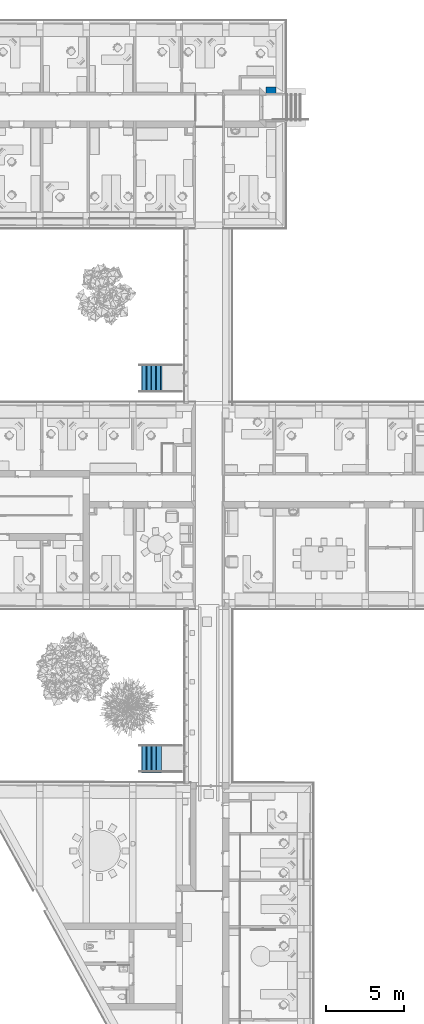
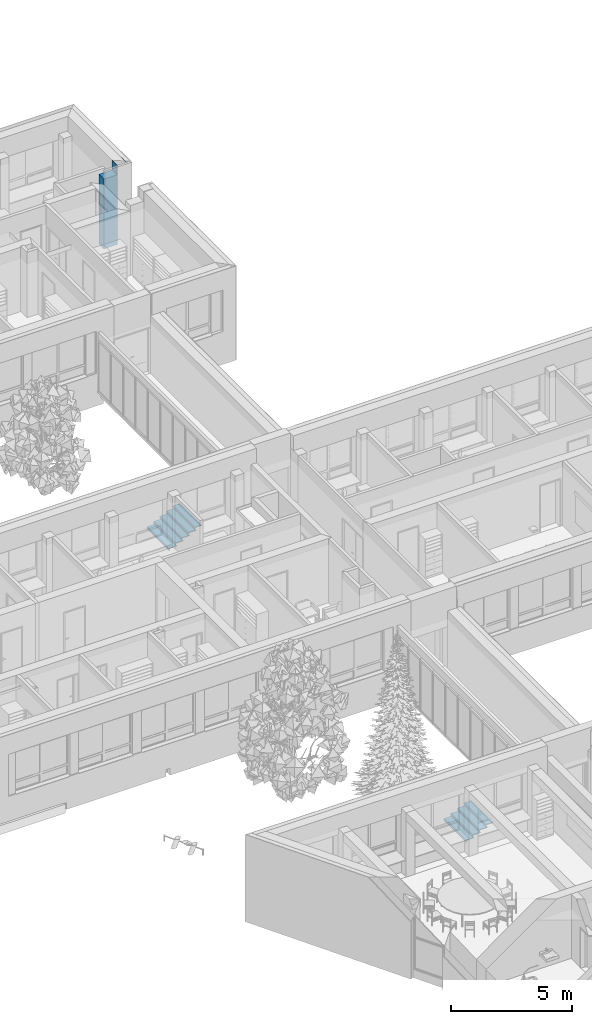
# One storey, part 74 of 194: 2 stairs, 1 wall.
"""IFC2X3 building model written with IfcOpenShell, lengths in millimetres."""

import ifcopenshell
import ifcopenshell.guid

model = None  # the IFC model being written
_history = None  # IfcOwnerHistory: only IFC2X3 demands one
_inside = {}  # id of a spatial element -> (the spatial element, [elements in it])
_under = {}  # id of a project, library or spatial element -> (it, [spatial elements below it])
_declared = {}  # id of a project -> (the project, [libraries it declares])
_typed = {}  # id of a type object -> (the type object, [elements of that type])
_made_of = {}  # id of a material, layer set ... -> (it, [elements and type objects made of it])


def new_model(schema):
    """Start an empty IFC model of exactly this schema.

    Asked for "IFC4X3", IfcOpenShell would pick the latest addendum, in which some entities
    have other attributes; the version numbers below select the first issue.
    IFC2X3 requires an IfcOwnerHistory on every rooted entity: one is made here for all.
    """
    global model, _history
    if schema == "IFC4X3":
        model = ifcopenshell.file(schema_version=(4, 3, 0, 0))
    else:
        model = ifcopenshell.file(schema=schema)
    _inside.clear()
    _under.clear()
    _declared.clear()
    _typed.clear()
    _made_of.clear()
    _history = None
    if model.schema == "IFC2X3":
        org = make("IfcOrganization", Name="unknown")
        user = make(
            "IfcPersonAndOrganization",
            ThePerson=make("IfcPerson", FamilyName="unknown"),
            TheOrganization=org,
        )
        app = make(
            "IfcApplication",
            ApplicationDeveloper=org,
            Version="unknown",
            ApplicationFullName="unknown",
            ApplicationIdentifier="unknown",
        )
        _history = make(
            "IfcOwnerHistory",
            OwningUser=user,
            OwningApplication=app,
            ChangeAction="ADDED",
            CreationDate=0,
        )
    return model


def make(cls, **values):
    """One entity of the class cls with the attributes given. An attribute that is None is left unset."""
    return model.create_entity(
        cls, **{name: value for name, value in values.items() if value is not None}
    )


def entity(cls, *values):
    """Any entity or typed value of the class cls, its attributes in the order of the schema. None: left unset."""
    e = model.create_entity(cls)
    for i, value in enumerate(values):
        if value is not None:
            e[i] = value
    return e


def rooted(cls, **values):
    """An entity with a GlobalId (a new one), such as an element, a storey or a relation."""
    return make(cls, GlobalId=ifcopenshell.guid.new(), OwnerHistory=_history, **values)


def si_unit(unit_type, name, prefix=None):
    """IfcSIUnit, for example si_unit("LENGTHUNIT", "METRE", prefix="MILLI")."""
    return make("IfcSIUnit", UnitType=unit_type, Prefix=prefix, Name=name)


def converted_unit(unit_type, name, factor, base, dimensions=None, offset=None):
    """IfcConversionBasedUnit, such as the inch: factor (a typed value) times the base unit."""
    return make(
        "IfcConversionBasedUnit"
        if offset is None
        else "IfcConversionBasedUnitWithOffset",
        ConversionOffset=offset,
        Dimensions=None
        if dimensions is None
        else entity("IfcDimensionalExponents", *dimensions),
        UnitType=unit_type,
        Name=name,
        ConversionFactor=make(
            "IfcMeasureWithUnit", ValueComponent=factor, UnitComponent=base
        ),
    )


def derived_unit(unit_type, elements):
    """IfcDerivedUnit: a product of units, each with its exponent."""
    return make(
        "IfcDerivedUnit",
        Elements=[
            make("IfcDerivedUnitElement", Unit=unit, Exponent=power)
            for unit, power in elements
        ],
        UnitType=unit_type,
    )


def money_unit(currency):
    """IfcMonetaryUnit."""
    return make("IfcMonetaryUnit", Currency=currency)


def assignment(units):
    """IfcUnitAssignment: the units of a project."""
    return None if units is None else make("IfcUnitAssignment", Units=units)


def point(xyz):
    """IfcCartesianPoint."""
    return None if xyz is None else make("IfcCartesianPoint", Coordinates=xyz)


def direction(xyz):
    """IfcDirection."""
    return None if xyz is None else make("IfcDirection", DirectionRatios=xyz)


def frame(location, z_axis=None, x_axis=None):
    """IfcAxis2Placement3D, a coordinate frame: its origin and axes. An axis left out is left unset."""
    return make(
        "IfcAxis2Placement3D",
        Location=point(location),
        Axis=direction(z_axis),
        RefDirection=direction(x_axis),
    )


def origin_with_axes():
    """The frame at (0, 0, 0) with the z axis (0, 0, 1) and the x axis (1, 0, 0) written out."""
    return frame((0.0, 0.0, 0.0), z_axis=(0.0, 0.0, 1.0), x_axis=(1.0, 0.0, 0.0))


def place(relative_to, where):
    """IfcLocalPlacement: puts the frame where relative to a parent placement (None: the world)."""
    return make(
        "IfcLocalPlacement", PlacementRelTo=relative_to, RelativePlacement=where
    )


def context(
    kind, dimensions, precision=None, world=None, true_north=None, identifier=None
):
    """IfcGeometricRepresentationContext, for example the 3D "Model" context."""
    return make(
        "IfcGeometricRepresentationContext",
        ContextIdentifier=identifier,
        ContextType=kind,
        CoordinateSpaceDimension=dimensions,
        Precision=precision,
        WorldCoordinateSystem=world,
        TrueNorth=true_north,
    )


def subcontext(parent, identifier, kind, view, scale=None):
    """IfcGeometricRepresentationSubContext, for example "Body" below "Model"."""
    return make(
        "IfcGeometricRepresentationSubContext",
        ContextIdentifier=identifier,
        ContextType=kind,
        ParentContext=parent,
        TargetScale=scale,
        TargetView=view,
    )


def project(units=None, contexts=None):
    """IfcProject with its units and contexts."""
    return rooted(
        "IfcProject",
        Name="project",
        RepresentationContexts=contexts,
        UnitsInContext=assignment(units),
    )


def spatial(cls, under=None, at=None, **own):
    """A site, building, storey or space (cls), placed at a placement, below another one or the project."""
    s = rooted(cls, ObjectPlacement=at, **own)
    if under is not None:
        _under.setdefault(under.id(), (under, []))[1].append(s)
    return s


def polyline(points):
    """IfcPolyline through the points."""
    return make("IfcPolyline", Points=[point(p) for p in points])


def outline(outer, holes=None, kind="AREA"):
    """IfcArbitraryClosedProfileDef: a profile drawn as a closed curve; with holes, ...WithVoids."""
    if holes is None:
        return make("IfcArbitraryClosedProfileDef", ProfileType=kind, OuterCurve=outer)
    return make(
        "IfcArbitraryProfileDefWithVoids",
        ProfileType=kind,
        OuterCurve=outer,
        InnerCurves=holes,
    )


def extrude(swept, where, along, depth):
    """IfcExtrudedAreaSolid: the profile swept, set in the frame where, extruded along a direction by depth."""
    return make(
        "IfcExtrudedAreaSolid",
        SweptArea=swept,
        Position=where,
        ExtrudedDirection=direction(along),
        Depth=depth,
    )


def boolean(op, a, b):
    """IfcBooleanResult of two solids."""
    return make("IfcBooleanResult", Operator=op, FirstOperand=a, SecondOperand=b)


def faces_of(points, faces, orient=None, outer=None):
    """IfcFace entities. A face is a list of loops; a loop is a list of indices into points, from 0.

    orient and outer hold one flag for each loop. By default every Orientation is true, the
    first loop of a face is its IfcFaceOuterBound and the others are IfcFaceBound.
    """
    made = []
    for i, loops in enumerate(faces):
        bounds = []
        for j, loop in enumerate(loops):
            is_outer = j == 0 if outer is None else outer[i][j]
            bounds.append(
                make(
                    "IfcFaceOuterBound" if is_outer else "IfcFaceBound",
                    Bound=make("IfcPolyLoop", Polygon=[points[k] for k in loop]),
                    Orientation=True if orient is None else orient[i][j],
                )
            )
        made.append(make("IfcFace", Bounds=bounds))
    return made


def faceted_brep(points, faces, orient=None, outer=None, voids=None):
    """IfcFacetedBrep: a solid bounded by flat faces; with voids (closed shells), ...WithVoids."""
    shared = [point(p) for p in points]
    hull = make("IfcClosedShell", CfsFaces=faces_of(shared, faces, orient, outer))
    if voids is None:
        return make("IfcFacetedBrep", Outer=hull)
    return make(
        "IfcFacetedBrepWithVoids",
        Outer=hull,
        Voids=[
            make(cls, CfsFaces=faces_of(shared, fs, o, b)) for cls, fs, o, b in voids
        ],
    )


def shape(context_of_items, identifier, shape_type, items):
    """IfcShapeRepresentation: the items that make up one representation, for example the "Body"."""
    return make(
        "IfcShapeRepresentation",
        ContextOfItems=context_of_items,
        RepresentationIdentifier=identifier,
        RepresentationType=shape_type,
        Items=items,
    )


def material(Name=None, Category=None):
    """IfcMaterial."""
    return make("IfcMaterial", Name=Name, Category=Category)


def made_of(thing, what):
    """Note that an element or type object is made of a material, layer set ...; save() writes the relation."""
    if what is not None:
        _made_of.setdefault(what.id(), (what, []))[1].append(thing)
    return thing


def type_object(cls, material=None, **own):
    """A type object (cls), such as IfcWallType, which elements share."""
    return made_of(rooted(cls, **own), material)


def element(
    cls,
    number,
    at=None,
    inside=None,
    cuts=None,
    type_object=None,
    material=None,
    context=None,
    identifier="Body",
    shape_type=None,
    held_by="IfcProductDefinitionShape",
    body=None,
    shapes=None,
    **own,
):
    """One element of the class cls, such as IfcWall. Its Tag is "e" and its number.

    at: its placement. inside: the storey or other place that contains it. cuts: it is an
    opening in that element (IfcRelVoidsElement). A single representation is given by context,
    identifier, shape_type and body (its items); several are given by shapes. held_by: the class
    of the entity that holds the representations. save() writes the other relations.
    """
    e = rooted(cls, Tag="e%d" % number, ObjectPlacement=at, **own)
    if body is not None:
        shapes = [shape(context, identifier, shape_type, body)]
    if shapes is not None:
        e.Representation = make(held_by, Representations=shapes)
    if inside is not None:
        _inside.setdefault(inside.id(), (inside, []))[1].append(e)
    if cuts is not None:
        rooted(
            "IfcRelVoidsElement", RelatingBuildingElement=cuts, RelatedOpeningElement=e
        )
    if type_object is not None:
        _typed.setdefault(type_object.id(), (type_object, []))[1].append(e)
    return made_of(e, material)


def aggregate(whole, parts):
    """IfcRelAggregates: a whole, such as a stair, and the parts it consists of."""
    return rooted("IfcRelAggregates", RelatingObject=whole, RelatedObjects=parts)


def save(model, path):
    """Write the relations noted so far, then the file.

    IfcRelAggregates (storeys below a building ...), IfcRelContainedInSpatialStructure (elements
    in a storey), IfcRelDefinesByType, IfcRelAssociatesMaterial and IfcRelDeclares: one each for
    every whole, place, type object, material and project.
    """
    for whole, parts in _under.values():
        aggregate(whole, parts)
    for where, things in _inside.values():
        rooted(
            "IfcRelContainedInSpatialStructure",
            RelatedElements=things,
            RelatingStructure=where,
        )
    for kind, things in _typed.values():
        rooted("IfcRelDefinesByType", RelatedObjects=things, RelatingType=kind)
    for what, things in _made_of.values():
        rooted("IfcRelAssociatesMaterial", RelatedObjects=things, RelatingMaterial=what)
    for by, libraries in _declared.values():
        rooted("IfcRelDeclares", RelatingContext=by, RelatedDefinitions=libraries)
    model.write(path)


model = new_model("IFC2X3")

# Units and contexts
model_context = context("Model", 3, precision=1e-05, world=origin_with_axes(), true_north=direction((0.0, 1.0)))
body_context = subcontext(model_context, "Body", "Model", "MODEL_VIEW")
ifc_project = project(units=[si_unit("LENGTHUNIT", "METRE", prefix="MILLI"), si_unit("AREAUNIT", "SQUARE_METRE"), si_unit("VOLUMEUNIT", "CUBIC_METRE"), converted_unit("PLANEANGLEUNIT", "DEGREE", entity("IfcPlaneAngleMeasure", 0.0174532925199), si_unit("PLANEANGLEUNIT", "RADIAN"), dimensions=[0, 0, 0, 0, 0, 0, 0]), si_unit("SOLIDANGLEUNIT", "STERADIAN"), money_unit("EUR"), converted_unit("TIMEUNIT", "Year", entity("IfcTimeMeasure", 31556926.0), si_unit("TIMEUNIT", "SECOND"), dimensions=[0, 0, 1, 0, 0, 0, 0]), si_unit("MASSUNIT", "GRAM", prefix="KILO"), si_unit("THERMODYNAMICTEMPERATUREUNIT", "DEGREE_CELSIUS"), si_unit("LUMINOUSINTENSITYUNIT", "LUMEN"), si_unit("ENERGYUNIT", "JOULE", prefix="MEGA"), derived_unit("THERMALCONDUCTANCEUNIT", [(si_unit("POWERUNIT", "WATT"), 1), (si_unit("LENGTHUNIT", "METRE"), -1), (si_unit("THERMODYNAMICTEMPERATUREUNIT", "KELVIN"), -1)]), derived_unit("SPECIFICHEATCAPACITYUNIT", [(si_unit("ENERGYUNIT", "JOULE"), 1), (si_unit("MASSUNIT", "GRAM", prefix="KILO"), -1), (si_unit("THERMODYNAMICTEMPERATUREUNIT", "KELVIN"), -1)]), derived_unit("MASSDENSITYUNIT", [(si_unit("MASSUNIT", "GRAM", prefix="KILO"), 1), (si_unit("VOLUMEUNIT", "CUBIC_METRE"), -1)])], contexts=[model_context])

# Site, building, storey
site_placement = place(None, origin_with_axes())
site = spatial("IfcSite", under=ifc_project, at=site_placement, Name="Site", CompositionType="ELEMENT")
building_placement = place(site_placement, origin_with_axes())
building = spatial("IfcBuilding", under=site, at=building_placement, Name="Building", CompositionType="ELEMENT")
storey_placement = place(building_placement, frame((0.0, 0.0, 3000.0), z_axis=(0.0, 0.0, 1.0), x_axis=(1.0, 0.0, 0.0)))
storey = spatial("IfcBuildingStorey", under=building, at=storey_placement, Name="2 KORRUS", CompositionType="ELEMENT", Elevation=3000.0)

# Wall
ifc_material = material(Name="Kivi -Ol.Olev Konstruktsioon")
wall_type = type_object("IfcWallType", Name="SW - 022", PredefinedType="NOTDEFINED")
wall_placement = place(storey_placement, frame((42543.7335859, 67815.469464, 0.0), z_axis=(0.0, 0.0, 1.0), x_axis=(0.999999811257, 0.000614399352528, 0.0)))
element("IfcWall", 1, at=wall_placement, inside=storey, type_object=wall_type, material=ifc_material, Name="ol.olev ss 420", context=body_context, shape_type="CSG", body=[
    boolean("DIFFERENCE", boolean("DIFFERENCE", extrude(outline(polyline([(-420.258127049, -419.999999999), (1299.33332049, -419.999999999), (1299.33332049, 0.0), (-420.258127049, 9.09494701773e-10), (-420.258127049, -419.999999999)])), origin_with_axes(), (0.0, 0.0, 1.0), 4000.0), faceted_brep([(629.622979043, -420.0, 4000.0), (629.889231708, 9.09494701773e-10, 4000.0), (-420.258127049, 1.81898940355e-09, 4000.0), (-420.258127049, -419.999999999, 4000.0), (629.889231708, 9.09494701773e-10, 3515.0), (629.622979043, -419.999999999, 3515.0), (0.0, 0.0, 3250.0), (0.0, 0.0, 0.0), (-420.258127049, 1.81898940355e-09, 0.0), (0.0, 0.0, 3515.0), (-420.258127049, -419.999999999, 0.0), (-0.258047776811, -420.0, 0.0), (-0.258047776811, -420.0, 3250.0), (0.0, -420.0, 3250.0), (0.0, -420.0, 3515.0)], [[[0, 1, 2, 3]], [[4, 1, 0, 5]], [[6, 7, 8, 2, 1, 4, 9]], [[2, 8, 10, 3]], [[5, 0, 3, 10, 11, 12, 13, 14]], [[9, 4, 5, 14]], [[7, 6, 12, 11]], [[7, 11, 10, 8]], [[14, 13, 6, 9]], [[13, 12, 6]]])), faceted_brep([(1079.33331662, 0.0, 4000.0), (1079.33331662, -419.999999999, 4000.0), (1299.33332049, -419.999999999, 4000.0), (1299.33332049, 0.0, 4000.0), (1079.33331662, -419.999999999, 3980.0), (1079.33331662, 0.0, 3980.0), (1078.46537939, -419.999999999, 3980.0), (1078.46537939, -420.0, 4000.0), (648.465340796, -420.0, 4000.0), (648.465340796, -420.0, 3980.0), (649.254506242, -419.999999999, 3980.0), (649.254506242, -419.999999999, 0.0), (1299.33332049, -419.999999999, 0.0), (1299.33332049, 0.0, 0.0), (649.333309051, 0.0, 0.0), (649.333309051, 0.0, 3980.0), (648.643283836, 0.0, 3980.0), (648.643283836, 0.0, 4000.0), (1078.64332243, 0.0, 4000.0), (1078.64332243, 0.0, 3980.0)], [[[0, 1, 2, 3]], [[4, 1, 0, 5]], [[6, 7, 8, 9, 10, 11, 12, 2, 1, 4]], [[2, 12, 13, 3]], [[5, 0, 3, 13, 14, 15, 16, 17, 18, 19]], [[6, 4, 5, 19]], [[18, 7, 6, 19]], [[7, 18, 17, 8]], [[9, 8, 17, 16]], [[10, 9, 16, 15]], [[11, 10, 15, 14]], [[11, 14, 13, 12]]])),
])

# Stairs
stair_1_placement = place(storey_placement, frame((34547.5062773, 48155.5306013, -779.190872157), z_axis=(0.0, 0.0, 1.0), x_axis=(0.0, -1.0, 0.0)))
element("IfcStair", 2, at=stair_1_placement, inside=storey, Name="Air Space", ShapeType="NOTDEFINED", context=body_context, shape_type="Brep", body=[
    faceted_brep([(0.0, 381.656984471, 118.338174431), (-1800.54179812, 381.656984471, 118.338174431), (-1800.54179812, 364.010473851, 155.838174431), (0.0, 364.010473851, 155.838174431), (0.0, 0.0, 118.338174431), (-1800.54179812, 0.0, 118.338174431), (-1800.54179812, 55.686822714, 0.0), (-1800.54179812, 18.186822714, 0.0), (-1800.54179812, -37.5, 118.338174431), (-1800.54179812, 0.0, 155.838174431), (0.0, 0.0, 155.838174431), (0.0, -37.5, 118.338174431), (0.0, 18.186822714, 0.0), (0.0, 55.686822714, 0.0)], [[[0, 1, 2, 3]], [[4, 5, 1, 0]], [[1, 5, 6, 7, 8, 9, 2]], [[3, 2, 9, 10]], [[0, 3, 10, 11, 12, 13, 4]], [[13, 6, 5, 4]], [[12, 7, 6, 13]], [[11, 8, 7, 12]], [[10, 9, 8, 11]]]),
    faceted_brep([(0.0, 689.980635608, 274.176348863), (-1800.54179812, 689.980635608, 274.176348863), (-1800.54179812, 672.334124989, 311.676348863), (0.0, 672.334124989, 311.676348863), (0.0, 308.323651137, 274.176348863), (-1800.54179812, 308.323651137, 274.176348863), (-1800.54179812, 364.010473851, 155.838174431), (-1800.54179812, 326.510473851, 155.838174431), (-1800.54179812, 270.823651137, 274.176348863), (-1800.54179812, 308.323651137, 311.676348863), (0.0, 308.323651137, 311.676348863), (0.0, 270.823651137, 274.176348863), (0.0, 326.510473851, 155.838174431), (0.0, 364.010473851, 155.838174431)], [[[0, 1, 2, 3]], [[4, 5, 1, 0]], [[1, 5, 6, 7, 8, 9, 2]], [[3, 2, 9, 10]], [[0, 3, 10, 11, 12, 13, 4]], [[13, 6, 5, 4]], [[12, 7, 6, 13]], [[11, 8, 7, 12]], [[10, 9, 8, 11]]]),
    faceted_brep([(0.0, 998.304286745, 430.014523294), (-1800.54179812, 998.304286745, 430.014523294), (-1800.54179812, 980.657776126, 467.514523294), (0.0, 980.657776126, 467.514523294), (0.0, 616.647302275, 430.014523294), (-1800.54179812, 616.647302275, 430.014523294), (-1800.54179812, 672.334124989, 311.676348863), (-1800.54179812, 634.834124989, 311.676348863), (-1800.54179812, 579.147302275, 430.014523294), (-1800.54179812, 616.647302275, 467.514523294), (0.0, 616.647302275, 467.514523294), (0.0, 579.147302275, 430.014523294), (0.0, 634.834124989, 311.676348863), (0.0, 672.334124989, 311.676348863)], [[[0, 1, 2, 3]], [[4, 5, 1, 0]], [[1, 5, 6, 7, 8, 9, 2]], [[3, 2, 9, 10]], [[0, 3, 10, 11, 12, 13, 4]], [[13, 6, 5, 4]], [[12, 7, 6, 13]], [[11, 8, 7, 12]], [[10, 9, 8, 11]]]),
    faceted_brep([(0.0, 1306.62793788, 585.852697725), (-1800.54179812, 1306.62793788, 585.852697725), (-1800.54179812, 1288.98142726, 623.352697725), (0.0, 1288.98142726, 623.352697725), (0.0, 924.970953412, 585.852697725), (-1800.54179812, 924.970953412, 585.852697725), (-1800.54179812, 980.657776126, 467.514523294), (-1800.54179812, 943.157776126, 467.514523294), (-1800.54179812, 887.470953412, 585.852697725), (-1800.54179812, 924.970953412, 623.352697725), (0.0, 924.970953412, 623.352697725), (0.0, 887.470953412, 585.852697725), (0.0, 943.157776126, 467.514523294), (0.0, 980.657776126, 467.514523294)], [[[0, 1, 2, 3]], [[4, 5, 1, 0]], [[1, 5, 6, 7, 8, 9, 2]], [[3, 2, 9, 10]], [[0, 3, 10, 11, 12, 13, 4]], [[13, 6, 5, 4]], [[12, 7, 6, 13]], [[11, 8, 7, 12]], [[10, 9, 8, 11]]]),
    faceted_brep([(0.0, 1541.61825569, 741.690872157), (-1800.54179812, 1541.61825569, 741.690872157), (-1800.54179812, 1541.61825569, 779.190872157), (0.0, 1541.61825569, 779.190872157), (0.0, 1233.29460455, 741.690872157), (-1800.54179812, 1233.29460455, 741.690872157), (-1800.54179812, 1288.98142726, 623.352697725), (-1800.54179812, 1251.48142726, 623.352697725), (-1800.54179812, 1195.79460455, 741.690872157), (-1800.54179812, 1233.29460455, 779.190872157), (0.0, 1233.29460455, 779.190872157), (0.0, 1195.79460455, 741.690872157), (0.0, 1251.48142726, 623.352697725), (0.0, 1288.98142726, 623.352697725)], [[[0, 1, 2, 3]], [[4, 5, 1, 0]], [[1, 5, 6, 7, 8, 9, 2]], [[3, 2, 9, 10]], [[0, 3, 10, 11, 12, 13, 4]], [[13, 6, 5, 4]], [[12, 7, 6, 13]], [[11, 8, 7, 12]], [[10, 9, 8, 11]]]),
])
stair_2_placement = place(storey_placement, frame((34538.8840677, 23598.5333384, -600.0), z_axis=(0.0, 0.0, 1.0), x_axis=(0.0, -1.0, 0.0)))
element("IfcStair", 3, at=stair_2_placement, inside=storey, Name="Air Space", ShapeType="NOTDEFINED", context=body_context, shape_type="Brep", body=[
    faceted_brep([(0.0, 393.333333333, 112.5), (-1800.54179812, 393.333333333, 112.5), (-1800.54179812, 375.0, 150.0), (0.0, 375.0, 150.0), (0.0, 0.0, 112.5), (-1800.54179812, 0.0, 112.5), (-1800.54179812, 55.0, 0.0), (-1800.54179812, 17.5, 0.0), (-1800.54179812, -37.5, 112.5), (-1800.54179812, 0.0, 150.0), (0.0, 0.0, 150.0), (0.0, -37.5, 112.5), (0.0, 17.5, 0.0), (0.0, 55.0, 0.0)], [[[0, 1, 2, 3]], [[4, 5, 1, 0]], [[1, 5, 6, 7, 8, 9, 2]], [[3, 2, 9, 10]], [[0, 3, 10, 11, 12, 13, 4]], [[13, 6, 5, 4]], [[12, 7, 6, 13]], [[11, 8, 7, 12]], [[10, 9, 8, 11]]]),
    faceted_brep([(0.0, 713.333333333, 262.5), (-1800.54179812, 713.333333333, 262.5), (-1800.54179812, 695.0, 300.0), (0.0, 695.0, 300.0), (0.0, 320.0, 262.5), (-1800.54179812, 320.0, 262.5), (-1800.54179812, 375.0, 150.0), (-1800.54179812, 337.5, 150.0), (-1800.54179812, 282.5, 262.5), (-1800.54179812, 320.0, 300.0), (0.0, 320.0, 300.0), (0.0, 282.5, 262.5), (0.0, 337.5, 150.0), (0.0, 375.0, 150.0)], [[[0, 1, 2, 3]], [[4, 5, 1, 0]], [[1, 5, 6, 7, 8, 9, 2]], [[3, 2, 9, 10]], [[0, 3, 10, 11, 12, 13, 4]], [[13, 6, 5, 4]], [[12, 7, 6, 13]], [[11, 8, 7, 12]], [[10, 9, 8, 11]]]),
    faceted_brep([(0.0, 1033.33333333, 412.5), (-1800.54179812, 1033.33333333, 412.5), (-1800.54179812, 1015.0, 450.0), (0.0, 1015.0, 450.0), (0.0, 640.0, 412.5), (-1800.54179812, 640.0, 412.5), (-1800.54179812, 695.0, 300.0), (-1800.54179812, 657.5, 300.0), (-1800.54179812, 602.5, 412.5), (-1800.54179812, 640.0, 450.0), (0.0, 640.0, 450.0), (0.0, 602.5, 412.5), (0.0, 657.5, 300.0), (0.0, 695.0, 300.0)], [[[0, 1, 2, 3]], [[4, 5, 1, 0]], [[1, 5, 6, 7, 8, 9, 2]], [[3, 2, 9, 10]], [[0, 3, 10, 11, 12, 13, 4]], [[13, 6, 5, 4]], [[12, 7, 6, 13]], [[11, 8, 7, 12]], [[10, 9, 8, 11]]]),
    faceted_brep([(0.0, 1280.0, 562.5), (-1800.54179812, 1280.0, 562.5), (-1800.54179812, 1280.0, 600.0), (0.0, 1280.0, 600.0), (0.0, 960.0, 562.5), (-1800.54179812, 960.0, 562.5), (-1800.54179812, 1015.0, 450.0), (-1800.54179812, 977.5, 450.0), (-1800.54179812, 922.5, 562.5), (-1800.54179812, 960.0, 600.0), (0.0, 960.0, 600.0), (0.0, 922.5, 562.5), (0.0, 977.5, 450.0), (0.0, 1015.0, 450.0)], [[[0, 1, 2, 3]], [[4, 5, 1, 0]], [[1, 5, 6, 7, 8, 9, 2]], [[3, 2, 9, 10]], [[0, 3, 10, 11, 12, 13, 4]], [[13, 6, 5, 4]], [[12, 7, 6, 13]], [[11, 8, 7, 12]], [[10, 9, 8, 11]]]),
])

save(model, "model.ifc")
